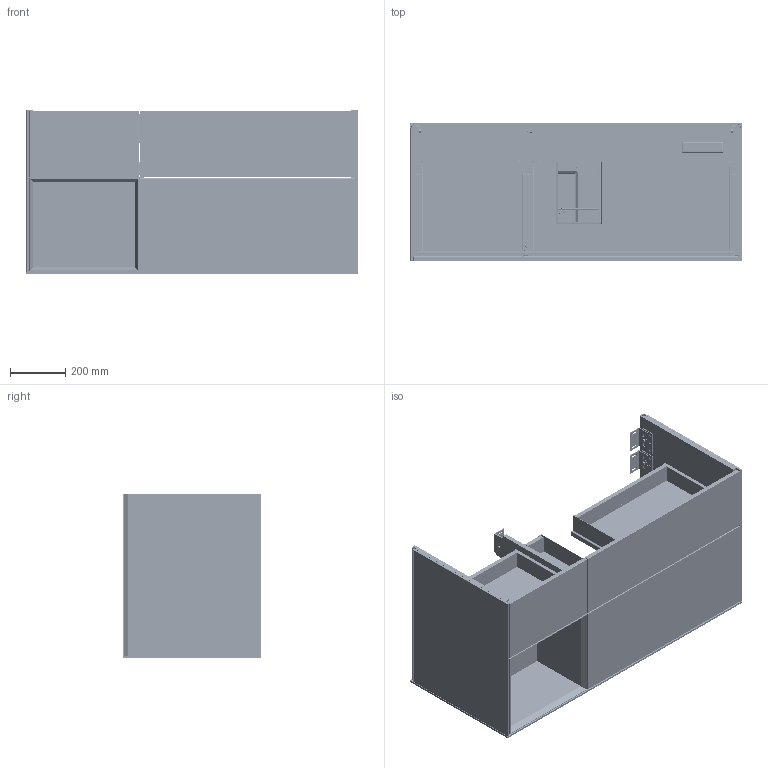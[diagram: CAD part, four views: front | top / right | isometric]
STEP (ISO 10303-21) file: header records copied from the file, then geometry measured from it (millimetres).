
FILE_DESCRIPTION((' '),'2;1');
FILE_NAME('M:\DWG\MÖBEL\3D-Zeichnungen Typen\Finion\STP\Finion_G060YYXX_3D.stp','2017-03-23T09:36:02',(' '),(' '),' ','ACIS',' ');
FILE_SCHEMA(('CONFIG_CONTROL_DESIGN'));
Length unit declared in the file: millimetre
Products named in the file (151): M:\DWG\MÖBEL\3D-Zeichnungen Typen\Finion\STP\Finion_G060YYXX_3D.stp; Körper1; Körper2; Körper3; Körper4; Körper5; Körper6; Körper7; Körper8; Körper9; Körper10; Körper11; Körper12; Körper13; Körper14; Körper15; Körper16; Körper17; Körper18; Körper19; Körper20; Körper21; Körper22; Körper23; Körper24; Körper25; Körper26; Körper27; Körper28; Körper29; Körper30; Körper31; Körper32; Körper33; Körper34; Körper35; Körper36; Körper37; Körper38; Körper39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
Assembly tree (150 placements, depth 2):
  M:\DWG\MÖBEL\3D-Zeichnungen Typen\Finion\STP\Finion_G060YYXX_3D.stp
    Körper1
    Körper2
    Körper3
    Körper4
    Körper5
    Körper6
    Körper7
    Körper8
    Körper9
    Körper10
    Körper11
    Körper12
    Körper13
    Körper14
    Körper15
    Körper16
    Körper17
    Körper18
    Körper19
    Körper20
    Körper21
    Körper22
    Körper23
    Körper24
    Körper25
    Körper26
    Körper27
    Körper28
    Körper29
    Körper30
    Körper31
    Körper32
    Körper33
    Körper34
    Körper35
    Körper36
    Körper37
    Körper38
    Körper39
    Körper40
    Körper41
    Körper42
    Körper43
    Körper44
    Körper45
    Körper46
    Körper47
    Körper48
    Körper49
    Körper50
    Körper51
    Körper52
    Körper53
    Körper54
    Körper55
    Körper56
    Körper57
    Körper58
    Körper59
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Bounding box: 1196 x 498 x 591 mm (x, y, z)
Volume: 60098726.9 mm3; surface area: 11699751.4 mm2
Topology: 185 solids, 185 shells, 10146 faces, 26961 edges, 17671 vertices
Faces by surface type: bspline 4041, plane 3604, cylinder 2164, cone 260, torus 47, sphere 30
Full cylindrical faces by diameter (mm): 2.086 x6, 2.5 x2, 3 x35, 3.2 x2, 3.5 x2, 4 x7, 5 x2, 6 x9, 7 x2, 8 x13, 8.02 x11, 10 x22, 12 x1, 30 x2
Entity records: 417521 total; most frequent: CARTESIAN_POINT 152849, ORIENTED_EDGE 52856, DIRECTION 46205, EDGE_CURVE 26428, VECTOR 17627, LINE 17627, VERTEX_POINT 17566, AXIS2_PLACEMENT_3D 14289
